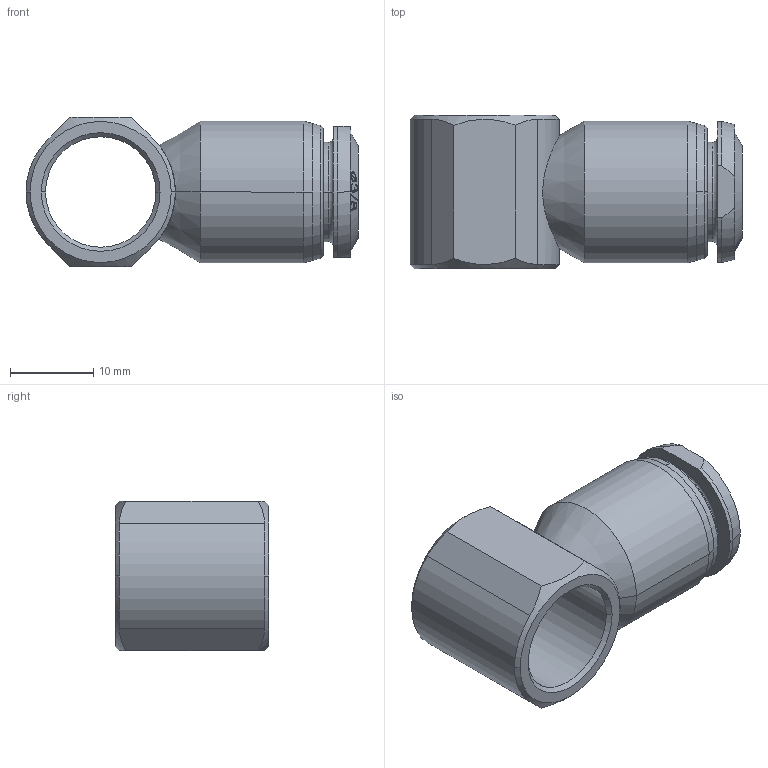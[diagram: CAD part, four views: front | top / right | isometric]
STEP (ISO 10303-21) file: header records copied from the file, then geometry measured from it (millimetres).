
FILE_DESCRIPTION (( 'STEP AP214' ), '1' );
FILE_NAME ('8550000020A.STEP', '2020-05-20T11:37:32', ( 'admin' ), ( '' ), 'SwSTEP 2.0', 'SolidWorks 2016', '' );
FILE_SCHEMA (( 'AUTOMOTIVE_DESIGN' ));
Length unit declared in the file: millimetre
Products named in the file (1): 8550000020A
Bounding box: 40 x 18.5 x 18 mm (x, y, z)
Volume: 5410.6 mm3; surface area: 4094.3 mm2
Topology: 1 solids, 1 shells, 119 faces, 303 edges, 197 vertices
Faces by surface type: bspline 58, cone 30, plane 14, cylinder 13, torus 4
Entity records: 8980 total; most frequent: CARTESIAN_POINT 6458, ORIENTED_EDGE 606, DIRECTION 348, EDGE_CURVE 303, VERTEX_POINT 197, B_SPLINE_CURVE_WITH_KNOTS 140, EDGE_LOOP 132, AXIS2_PLACEMENT_3D 123
